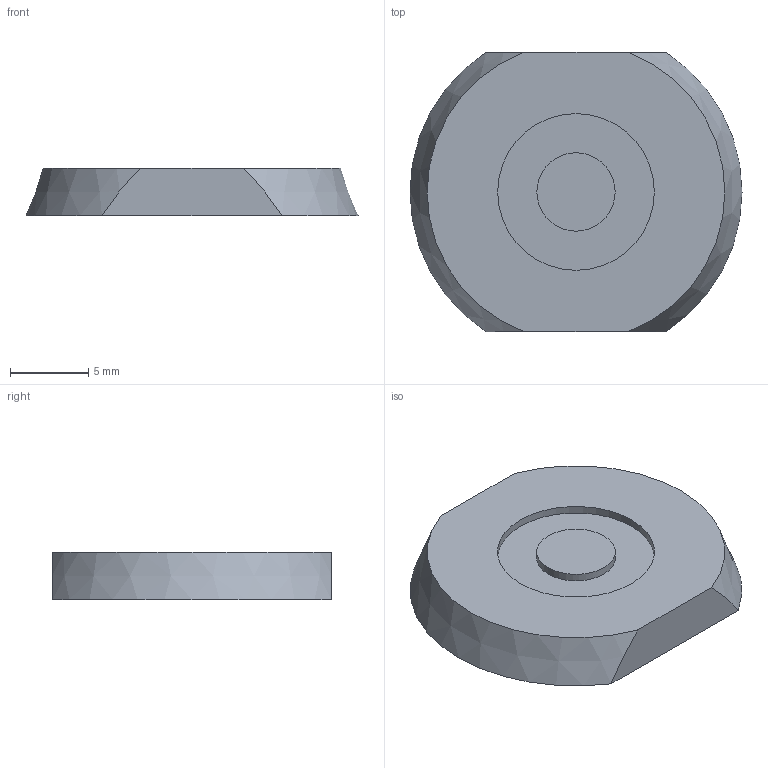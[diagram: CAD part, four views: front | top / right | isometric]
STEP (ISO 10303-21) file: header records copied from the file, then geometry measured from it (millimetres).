
FILE_DESCRIPTION(/* description */ (''),/* implementation_level */ '2;1');
FILE_NAME(/* name */ 'button_cap_c.stp',/* time_stamp */ '2019-01-13T14:29:14+01:00',/* author */ (''),/* organization */ (''),/* preprocessor_version */ 'ST-DEVELOPER v16',/* originating_system */ 'SIEMENS PLM Software NX 11.0',/* authorisation */ '');
FILE_SCHEMA (('AUTOMOTIVE_DESIGN { 1 0 10303 214 3 1 1 1 }'));
Length unit declared in the file: millimetre
Products named in the file (1): button_cap_c
Bounding box: 21.18 x 17.8 x 3 mm (x, y, z)
Volume: 866.2 mm3; surface area: 832.8 mm2
Topology: 1 solids, 1 shells, 12 faces, 21 edges, 14 vertices
Faces by surface type: plane 7, cylinder 3, cone 2
Full cylindrical faces by diameter (mm): 5 x2, 10 x1
Entity records: 308 total; most frequent: CARTESIAN_POINT 57, DIRECTION 50, ORIENTED_EDGE 36, AXIS2_PLACEMENT_3D 23, EDGE_LOOP 18, EDGE_CURVE 18, VERTEX_POINT 14, FACE_BOUND 12
